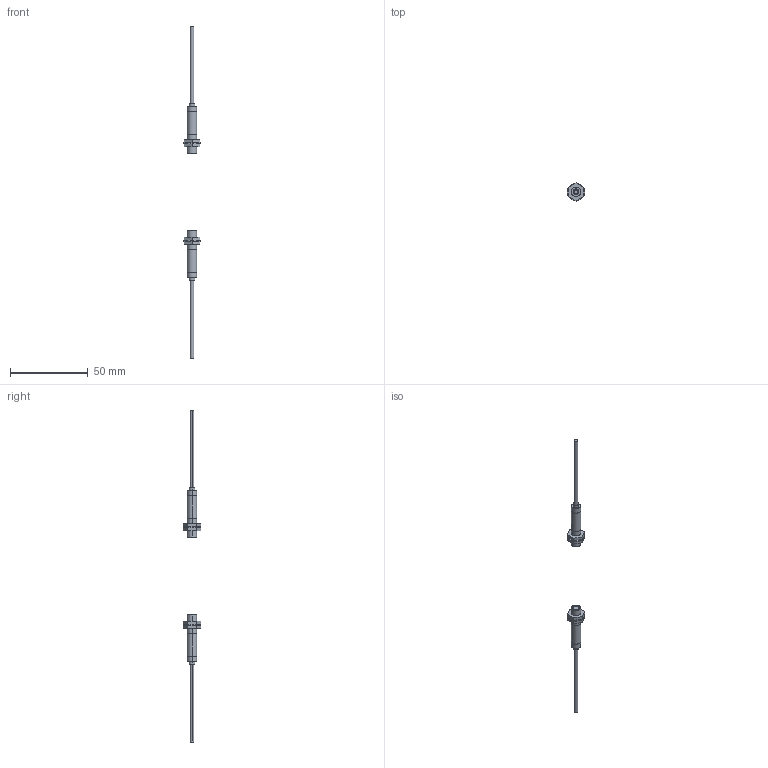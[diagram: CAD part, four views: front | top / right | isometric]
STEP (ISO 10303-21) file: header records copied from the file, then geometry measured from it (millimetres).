
FILE_DESCRIPTION (( 'STEP AP203' ), '1' );
FILE_NAME ('ls-h101.STEP', '2013-05-17T09:32:21', ( ' ' ), ( ' ' ), 'SwSTEP 2.0', 'SolidWorks 2010', '' );
FILE_SCHEMA (( 'CONFIG_CONTROL_DESIGN' ));
Length unit declared in the file: millimetre
Products named in the file (7): ls-h101e; ls-h101d; fd-61_washer; fd-61_nut; ls-h101
Assembly tree (10 placements, depth 3):
  ls-h101
    ls-h101d
      fd-61_washer
      fd-61_nut  x2
      ls-h101d
    ls-h101e
      fd-61_washer
      ls-h101e
      fd-61_nut  x2
Bounding box: 11 x 11.55 x 213 mm (x, y, z)
Volume: 2760.4 mm3; surface area: 3571 mm2
Topology: 16 solids, 16 shells, 102 faces, 204 edges, 136 vertices
Faces by surface type: plane 61, cylinder 41
Entity records: 2517 total; most frequent: DIRECTION 346, CARTESIAN_POINT 281, ORIENTED_EDGE 240, AXIS2_PLACEMENT_3D 145, EDGE_CURVE 120, VERTEX_POINT 80, EDGE_LOOP 72, ADVANCED_FACE 66
